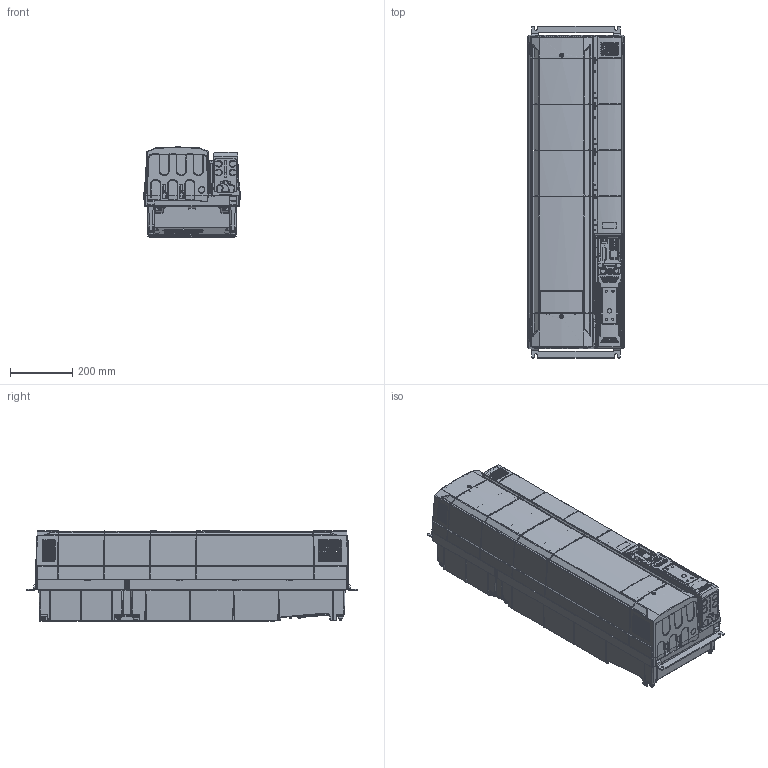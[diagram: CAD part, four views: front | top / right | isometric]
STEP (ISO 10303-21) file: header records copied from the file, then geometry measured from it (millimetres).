
FILE_DESCRIPTION((''),'2;1');
FILE_NAME('UNI-M_F10E_STEP_SW0007','2015-01-27T',('coopst01'),(''),'PRO/ENGINEER BY PARAMETRIC TECHNOLOGY CORPORATION, 2011490','PRO/ENGINEER BY PARAMETRIC TECHNOLOGY CORPORATION, 2011490','');
FILE_SCHEMA(('CONFIG_CONTROL_DESIGN'));
Products named in the file (1): UNI-M_F10E_STEP_SW0007
Bounding box: 310.01 x 1068.93 x 290.01 mm (x, y, z)
Surface area: 2010956.9 mm2 (no closed solid volume)
Topology: 0 solids, 574 shells, 1946 faces, 16153 edges, 14528 vertices
Faces by surface type: plane 933, cylinder 451, cone 187, extrusion 143, bspline 139, torus 85, sphere 8
Entity records: 185931 total; most frequent: CARTESIAN_POINT 69453, ORIENTED_EDGE 17985, DIRECTION 16444, EDGE_CURVE 16141, VERTEX_POINT 14523, VECTOR 9026, LINE 8883, B_SPLINE_CURVE_WITH_KNOTS 5353
